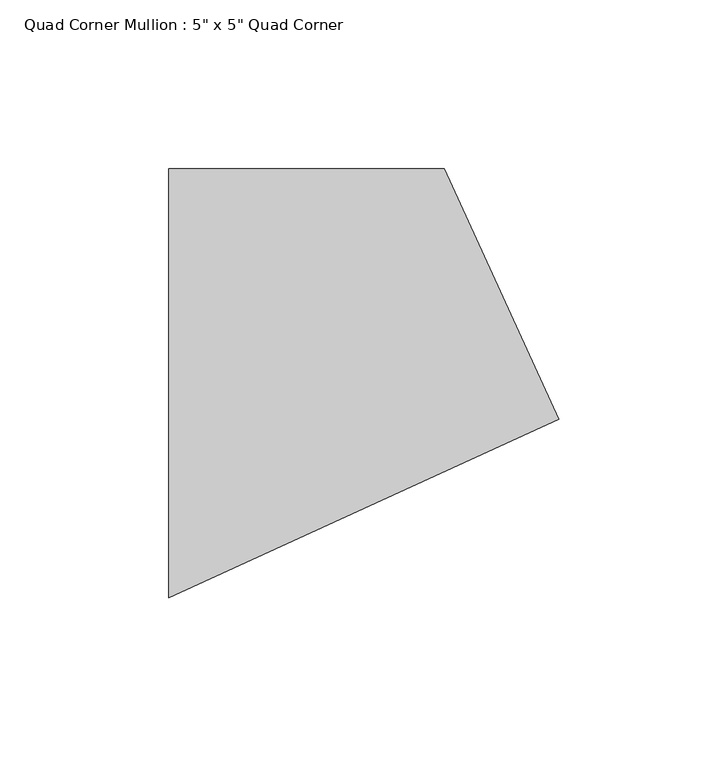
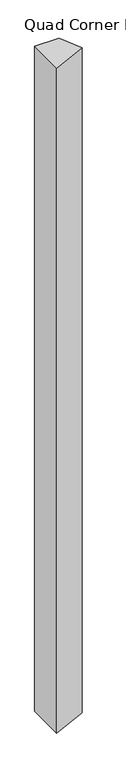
"""IFC4 building model written with IfcOpenShell, lengths in millimetres: member geometry."""

from ifc_helpers import new_model, si_unit, frame, origin, place, context, project, spatial, polyline, outline, extrude, source, transform, mapped, element, save


def member_4178592a(model_context):
    return source(origin(), model_context, "Body", "SweptSolid", [
        extrude(outline(polyline([(74.7078921, -10.6493518), (-40.7728811, -63.5), (-40.7728811, 63.5), (40.7728811, 63.5), (74.7078921, -10.6493518)])), frame((0.0, 0.0, -2354.6578676), z_axis=(0.0, 0.0, 1.0), x_axis=(1.0, 0.0, 0.0)), (0.0, 0.0, 1.0), 2354.6578676),
    ])


if __name__ == "__main__":
    model = new_model("IFC4")
    model_context = context("Model", 3, world=origin())
    ifc_project = project(units=[si_unit("LENGTHUNIT", "METRE", prefix="MILLI")], contexts=[model_context])
    site = spatial("IfcSite", under=ifc_project)
    building = spatial("IfcBuilding", under=site)
    placement = place(None, origin())
    member_shape = member_4178592a(model_context)
    element("IfcMember", 1, ObjectType="Quad Corner Mullion : 5\" x 5\" Quad Corner", at=placement, inside=building, context=model_context, shape_type="MappedRepresentation", body=[
        mapped(member_shape, transform((0.0, 0.0, 0.0), x_axis=(1.0, 0.0, 0.0), y_axis=(0.0, 1.0, 0.0), z_axis=(0.0, 0.0, 1.0))),
    ])
    save(model, "model.ifc")
